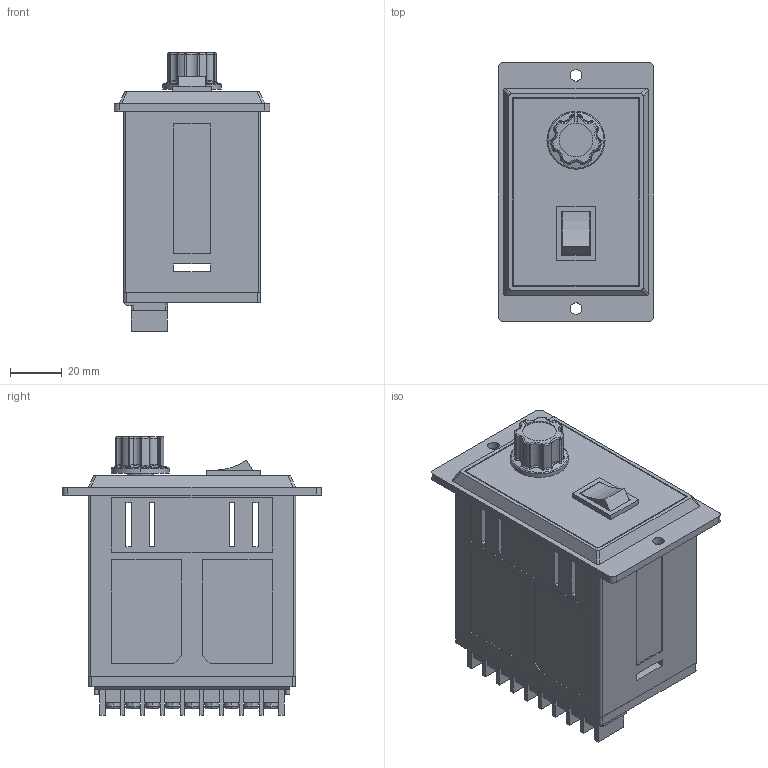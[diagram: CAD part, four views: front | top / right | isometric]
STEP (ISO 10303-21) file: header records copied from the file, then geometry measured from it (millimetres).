
FILE_DESCRIPTION (( 'STEP AP214' ), '1' );
FILE_NAME ('A10-US425C.STEP', '2020-05-15T06:50:51', ( '' ), ( '' ), 'SwSTEP 2.0', 'SolidWorks 2019', '' );
FILE_SCHEMA (( 'AUTOMOTIVE_DESIGN' ));
Length unit declared in the file: millimetre
Products named in the file (1): A10-US425C
Bounding box: 60 x 100 x 107.5 mm (x, y, z)
Volume: 346469.1 mm3; surface area: 51515.3 mm2
Topology: 1 solids, 1 shells, 754 faces, 2060 edges, 1342 vertices
Faces by surface type: plane 499, cylinder 123, torus 55, cone 39, bspline 21, sphere 17
Entity records: 28194 total; most frequent: CARTESIAN_POINT 5813, ORIENTED_EDGE 4104, DIRECTION 3779, EDGE_CURVE 2052, VECTOR 1393, LINE 1393, VERTEX_POINT 1338, AXIS2_PLACEMENT_3D 1193
